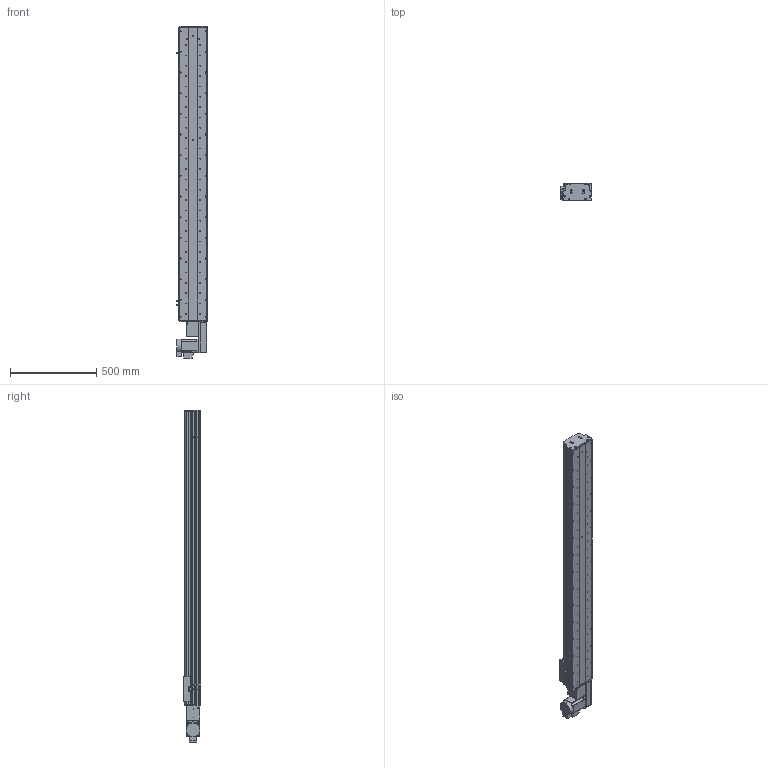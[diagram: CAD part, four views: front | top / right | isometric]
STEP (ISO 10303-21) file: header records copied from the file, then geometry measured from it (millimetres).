
FILE_DESCRIPTION (( 'STEP AP214' ), '1' );
FILE_NAME ('KSD165B-S1450-MRB-CM.STEP', '2017-10-16T09:08:03', ( '微软用户' ), ( '微软中国' ), 'SwSTEP 2.0', 'SolidWorks 2014', '' );
FILE_SCHEMA (( 'AUTOMOTIVE_DESIGN' ));
Length unit declared in the file: millimetre
Products named in the file (17): KSD165B-S1450-MRB-CM; HTPA26S5M250-A-H8 750W萇儂蚚; HTPA26S5M250-A-H8 400W萇儂蚚 ; 130宽模组马达安装板连板左右折同步带; 130宽模组保护罩上下左右折-同步带; KSD165模组-同步带防尘盖1-1450行程; KSD165模组同步带底板-1450行程; 拸秶雄ん750W侜督萇儂; 165宽马达安装板同步带右; U倰嫖萇假蚾璃; U倰嫖萇EEㄜSX672; 覜茼え68遵圉猾敕; KSD165模组-同步带-防撞垫2; KSD165模组同步带-防撞垫1; KSD165耀郪-ヶ傷啣1-肮祭湍; KSD165模组-后端板1-同步带; KSD165模组-同步带滑动座-最新版
Assembly tree (20 placements, depth 2):
  KSD165B-S1450-MRB-CM
    KSD165模组-同步带滑动座-最新版
    KSD165模组-后端板1-同步带
    KSD165耀郪-ヶ傷啣1-肮祭湍
    KSD165模组同步带-防撞垫1
    KSD165模组-同步带-防撞垫2
    覜茼え68遵圉猾敕
    U倰嫖萇EEㄜSX672  x3
    U倰嫖萇假蚾璃  x3
    165宽马达安装板同步带右
    拸秶雄ん750W侜督萇儂
    KSD165模组同步带底板-1450行程
    KSD165模组-同步带防尘盖1-1450行程
    130宽模组保护罩上下左右折-同步带
    130宽模组马达安装板连板左右折同步带
    HTPA26S5M250-A-H8 400W萇儂蚚 
    HTPA26S5M250-A-H8 750W萇儂蚚
Bounding box: 178.7 x 104 x 1927.5 mm (x, y, z)
Volume: 9945762.6 mm3; surface area: 2319584.4 mm2
Topology: 21 solids, 21 shells, 2043 faces, 5784 edges, 3780 vertices
Faces by surface type: cylinder 1335, plane 596, cone 112
Entity records: 67140 total; most frequent: CARTESIAN_POINT 13780, DIRECTION 10964, ORIENTED_EDGE 10228, EDGE_CURVE 5114, AXIS2_PLACEMENT_3D 4314, VERTEX_POINT 3372, CIRCLE 2468, LINE 2336
